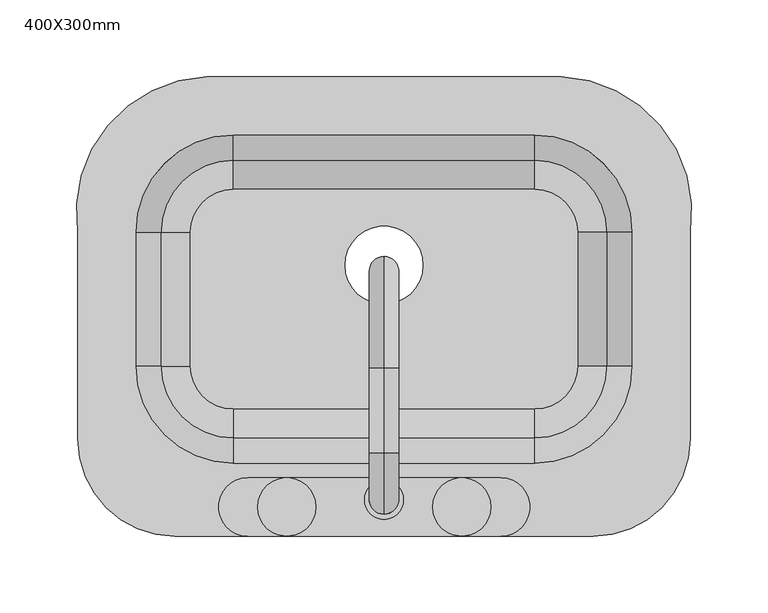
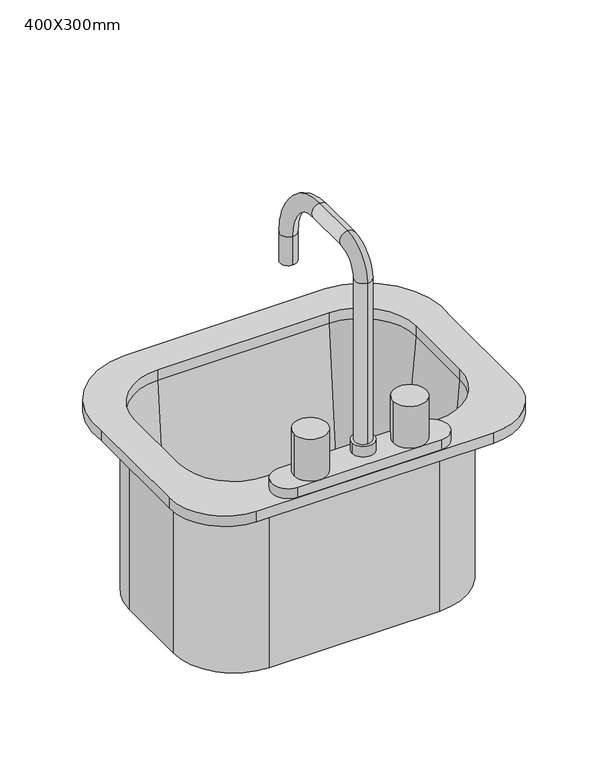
"""IFC4 building model written with IfcOpenShell, lengths in millimetres: flow terminal geometry, ARQ_VANITORIO : 400X300mm."""

import ifcopenshell
import ifcopenshell.guid

model = None  # the IFC model being written
_history = None  # IfcOwnerHistory: only IFC2X3 demands one
_inside = {}  # id of a spatial element -> (the spatial element, [elements in it])
_under = {}  # id of a project, library or spatial element -> (it, [spatial elements below it])
_declared = {}  # id of a project -> (the project, [libraries it declares])
_typed = {}  # id of a type object -> (the type object, [elements of that type])
_made_of = {}  # id of a material, layer set ... -> (it, [elements and type objects made of it])


def new_model(schema):
    """Start an empty IFC model of exactly this schema.

    Asked for "IFC4X3", IfcOpenShell would pick the latest addendum, in which some entities
    have other attributes; the version numbers below select the first issue.
    IFC2X3 requires an IfcOwnerHistory on every rooted entity: one is made here for all.
    """
    global model, _history
    if schema == "IFC4X3":
        model = ifcopenshell.file(schema_version=(4, 3, 0, 0))
    else:
        model = ifcopenshell.file(schema=schema)
    _inside.clear()
    _under.clear()
    _declared.clear()
    _typed.clear()
    _made_of.clear()
    _history = None
    if model.schema == "IFC2X3":
        org = make("IfcOrganization", Name="unknown")
        user = make(
            "IfcPersonAndOrganization",
            ThePerson=make("IfcPerson", FamilyName="unknown"),
            TheOrganization=org,
        )
        app = make(
            "IfcApplication",
            ApplicationDeveloper=org,
            Version="unknown",
            ApplicationFullName="unknown",
            ApplicationIdentifier="unknown",
        )
        _history = make(
            "IfcOwnerHistory",
            OwningUser=user,
            OwningApplication=app,
            ChangeAction="ADDED",
            CreationDate=0,
        )
    return model


def make(cls, **values):
    """One entity of the class cls with the attributes given. An attribute that is None is left unset."""
    return model.create_entity(
        cls, **{name: value for name, value in values.items() if value is not None}
    )


def rooted(cls, **values):
    """An entity with a GlobalId (a new one), such as an element, a storey or a relation."""
    return make(cls, GlobalId=ifcopenshell.guid.new(), OwnerHistory=_history, **values)


def si_unit(unit_type, name, prefix=None):
    """IfcSIUnit, for example si_unit("LENGTHUNIT", "METRE", prefix="MILLI")."""
    return make("IfcSIUnit", UnitType=unit_type, Prefix=prefix, Name=name)


def assignment(units):
    """IfcUnitAssignment: the units of a project."""
    return None if units is None else make("IfcUnitAssignment", Units=units)


def point(xyz):
    """IfcCartesianPoint."""
    return None if xyz is None else make("IfcCartesianPoint", Coordinates=xyz)


def direction(xyz):
    """IfcDirection."""
    return None if xyz is None else make("IfcDirection", DirectionRatios=xyz)


def frame(location, z_axis=None, x_axis=None):
    """IfcAxis2Placement3D, a coordinate frame: its origin and axes. An axis left out is left unset."""
    return make(
        "IfcAxis2Placement3D",
        Location=point(location),
        Axis=direction(z_axis),
        RefDirection=direction(x_axis),
    )


def origin():
    """The frame at (0, 0, 0) with its axes left unset."""
    return frame((0.0, 0.0, 0.0))


def place(relative_to, where):
    """IfcLocalPlacement: puts the frame where relative to a parent placement (None: the world)."""
    return make(
        "IfcLocalPlacement", PlacementRelTo=relative_to, RelativePlacement=where
    )


def context(
    kind, dimensions, precision=None, world=None, true_north=None, identifier=None
):
    """IfcGeometricRepresentationContext, for example the 3D "Model" context."""
    return make(
        "IfcGeometricRepresentationContext",
        ContextIdentifier=identifier,
        ContextType=kind,
        CoordinateSpaceDimension=dimensions,
        Precision=precision,
        WorldCoordinateSystem=world,
        TrueNorth=true_north,
    )


def project(units=None, contexts=None):
    """IfcProject with its units and contexts."""
    return rooted(
        "IfcProject",
        Name="project",
        RepresentationContexts=contexts,
        UnitsInContext=assignment(units),
    )


def spatial(cls, under=None, at=None, **own):
    """A site, building, storey or space (cls), placed at a placement, below another one or the project."""
    s = rooted(cls, ObjectPlacement=at, **own)
    if under is not None:
        _under.setdefault(under.id(), (under, []))[1].append(s)
    return s


def polyline(points):
    """IfcPolyline through the points."""
    return make("IfcPolyline", Points=[point(p) for p in points])


def circle_curve(where, radius):
    """IfcCircle in the frame where."""
    return make("IfcCircle", Position=where, Radius=radius)


def ellipse_curve(where, semi_axis1, semi_axis2):
    """IfcEllipse in the frame where."""
    return make(
        "IfcEllipse", Position=where, SemiAxis1=semi_axis1, SemiAxis2=semi_axis2
    )


def trimmed(basis, trim1, trim2, sense, master):
    """IfcTrimmedCurve: the piece of a basis curve between two trims."""
    return make(
        "IfcTrimmedCurve",
        BasisCurve=basis,
        Trim1=trim1,
        Trim2=trim2,
        SenseAgreement=sense,
        MasterRepresentation=master,
    )


def shape(context_of_items, identifier, shape_type, items):
    """IfcShapeRepresentation: the items that make up one representation, for example the "Body"."""
    return make(
        "IfcShapeRepresentation",
        ContextOfItems=context_of_items,
        RepresentationIdentifier=identifier,
        RepresentationType=shape_type,
        Items=items,
    )


def source(mapping_origin, context_of_items, identifier, shape_type, items):
    """IfcRepresentationMap: a shape defined once, which mapped items show again and again."""
    return make(
        "IfcRepresentationMap",
        MappingOrigin=mapping_origin,
        MappedRepresentation=shape(context_of_items, identifier, shape_type, items),
    )


def transform(
    local_origin,
    x_axis=None,
    y_axis=None,
    z_axis=None,
    scale=None,
    scale2=None,
    scale3=None,
    uniform=True,
):
    """IfcCartesianTransformationOperator3D, or its non-uniform kind. x_axis, y_axis, z_axis: its Axis1, 2, 3."""
    if uniform:
        return make(
            "IfcCartesianTransformationOperator3D",
            Axis1=direction(x_axis),
            Axis2=direction(y_axis),
            LocalOrigin=point(local_origin),
            Scale=scale,
            Axis3=direction(z_axis),
        )
    return make(
        "IfcCartesianTransformationOperator3DnonUniform",
        Axis1=direction(x_axis),
        Axis2=direction(y_axis),
        LocalOrigin=point(local_origin),
        Scale=scale,
        Axis3=direction(z_axis),
        Scale2=scale2,
        Scale3=scale3,
    )


def mapped(mapping_source, mapping_target):
    """IfcMappedItem: shows the shape of a source again, moved by a transform."""
    return make(
        "IfcMappedItem", MappingSource=mapping_source, MappingTarget=mapping_target
    )


def made_of(thing, what):
    """Note that an element or type object is made of a material, layer set ...; save() writes the relation."""
    if what is not None:
        _made_of.setdefault(what.id(), (what, []))[1].append(thing)
    return thing


def element(
    cls,
    number,
    at=None,
    inside=None,
    cuts=None,
    type_object=None,
    material=None,
    context=None,
    identifier="Body",
    shape_type=None,
    held_by="IfcProductDefinitionShape",
    body=None,
    shapes=None,
    **own,
):
    """One element of the class cls, such as IfcWall. Its Tag is "e" and its number.

    at: its placement. inside: the storey or other place that contains it. cuts: it is an
    opening in that element (IfcRelVoidsElement). A single representation is given by context,
    identifier, shape_type and body (its items); several are given by shapes. held_by: the class
    of the entity that holds the representations. save() writes the other relations.
    """
    e = rooted(cls, Tag="e%d" % number, ObjectPlacement=at, **own)
    if body is not None:
        shapes = [shape(context, identifier, shape_type, body)]
    if shapes is not None:
        e.Representation = make(held_by, Representations=shapes)
    if inside is not None:
        _inside.setdefault(inside.id(), (inside, []))[1].append(e)
    if cuts is not None:
        rooted(
            "IfcRelVoidsElement", RelatingBuildingElement=cuts, RelatedOpeningElement=e
        )
    if type_object is not None:
        _typed.setdefault(type_object.id(), (type_object, []))[1].append(e)
    return made_of(e, material)


def aggregate(whole, parts):
    """IfcRelAggregates: a whole, such as a stair, and the parts it consists of."""
    return rooted("IfcRelAggregates", RelatingObject=whole, RelatedObjects=parts)


def save(model, path):
    """Write the relations noted so far, then the file.

    IfcRelAggregates (storeys below a building ...), IfcRelContainedInSpatialStructure (elements
    in a storey), IfcRelDefinesByType, IfcRelAssociatesMaterial and IfcRelDeclares: one each for
    every whole, place, type object, material and project.
    """
    for whole, parts in _under.values():
        aggregate(whole, parts)
    for where, things in _inside.values():
        rooted(
            "IfcRelContainedInSpatialStructure",
            RelatedElements=things,
            RelatingStructure=where,
        )
    for kind, things in _typed.values():
        rooted("IfcRelDefinesByType", RelatedObjects=things, RelatingType=kind)
    for what, things in _made_of.values():
        rooted("IfcRelAssociatesMaterial", RelatedObjects=things, RelatingMaterial=what)
    for by, libraries in _declared.values():
        rooted("IfcRelDeclares", RelatingContext=by, RelatedDefinitions=libraries)
    model.write(path)


def plane_surface(at):
    """IfcPlane: the flat surface through the origin of the frame at, square to its z axis."""
    return make("IfcPlane", Position=at)


def cylinder_surface(at, radius):
    """IfcCylindricalSurface: all points at the distance radius from the z axis of the frame at."""
    return make("IfcCylindricalSurface", Position=at, Radius=radius)


def revolved_surface(curve, axis_point, axis_direction):
    """IfcSurfaceOfRevolution: the curve turned about the line through axis_point along axis_direction."""
    return make(
        "IfcSurfaceOfRevolution",
        SweptCurve=make("IfcArbitraryOpenProfileDef", ProfileType="CURVE", Curve=curve),
        AxisPosition=make("IfcAxis1Placement", Location=point(axis_point), Axis=direction(axis_direction)),
    )


def advanced_brep(points, edges, surfaces, faces):
    """IfcAdvancedBrep: a solid bounded by faces that lie on surfaces and meet in shared edges.

    An edge is (start, end): straight between two places in points (the first is 0);
    or (start, end, curve); or (start, end, curve, False) where it runs against its curve.
    A face is (place in surfaces, loops), or (place, loops, False) where it looks against
    its surface's normal. A loop lists edges by number (the first is 1), with a minus sign
    where the edge is run from its end to its start. The first loop is the outer one.
    """
    corners = [point(p) for p in points]
    vertices = [make("IfcVertexPoint", VertexGeometry=c) for c in corners]
    made = []
    for start, end, *more in edges:
        made.append(
            make(
                "IfcEdgeCurve",
                EdgeStart=vertices[start],
                EdgeEnd=vertices[end],
                EdgeGeometry=more[0] if more else make("IfcPolyline", Points=[corners[start], corners[end]]),
                SameSense=more[1] if len(more) > 1 else True,
            )
        )
    hull = []
    for where, loops, *sense in faces:
        bounds = []
        for j, loop in enumerate(loops):
            ring = [make("IfcOrientedEdge", EdgeElement=made[abs(k) - 1], Orientation=k > 0) for k in loop]
            bounds.append(
                make(
                    "IfcFaceOuterBound" if j == 0 else "IfcFaceBound",
                    Bound=make("IfcEdgeLoop", EdgeList=ring),
                    Orientation=True,
                )
            )
        hull.append(make("IfcAdvancedFace", Bounds=bounds, FaceSurface=surfaces[where], SameSense=sense[0] if sense else True))
    return make("IfcAdvancedBrep", Outer=make("IfcClosedShell", CfsFaces=hull))


def flow_terminal_400x300mm_a22b8487(model_context):
    return source(origin(), model_context, "Body", "AdvancedBrep", [
        advanced_brep(
        [(183.9392406, -69.0204011, 684.1), (183.9392406, -69.0204011, 900.0), (114.0892406, -138.8704011, 900.0), (114.0892406, -138.8704011, 684.1), (-82.7107594, -138.8704011, 684.1), (-152.5607594, -69.0204011, 684.1), (-152.5607594, 18.2545989, 684.1), (-82.7107594, 88.1045989, 684.1), (114.0892406, 88.1045989, 684.1), (183.9392406, 18.2545989, 684.1), (-9.7107594, -3.175, 684.1), (41.0892406, -3.175, 684.1), (142.0776588, -69.0204011, 693.625), (142.0776588, 18.2545989, 693.625), (114.0892406, 46.2430171, 693.625), (-82.7107594, 46.2430171, 693.625), (-110.6991776, 18.2545989, 693.625), (-110.6991776, -69.0204011, 693.625), (-82.7107594, -97.0088193, 693.625), (114.0892406, -97.0088193, 693.625), (-9.7107594, -3.175, 693.625), (41.0892406, -3.175, 693.625), (114.0892406, -115.9863283, 711.0146831), (161.0551678, -69.0204011, 711.0146831), (114.0892406, -132.5204011, 900.0), (177.5892406, -69.0204011, 900.0), (183.9392406, 18.2545989, 900.0), (161.0551678, 18.2545989, 711.0146831), (177.5892406, 18.2545989, 900.0), (114.0892406, 88.1045989, 900.0), (114.0892406, 65.2205261, 711.0146831), (114.0892406, 81.7545989, 900.0), (-82.7107594, 88.1045989, 900.0), (-82.7107594, 65.2205261, 711.0146831), (-82.7107594, 81.7545989, 900.0), (-152.5607594, 18.2545989, 900.0), (-129.6766866, 18.2545989, 711.0146831), (-146.2107594, 18.2545989, 900.0), (-152.5607594, -69.0204011, 900.0), (-129.6766866, -69.0204011, 711.0146831), (-146.2107594, -69.0204011, 900.0), (-82.7107594, -138.8704011, 900.0), (-82.7107594, -115.9863283, 711.0146831), (-82.7107594, -132.5204011, 900.0), (-99.9606923, 119.8545989, 912.7), (-184.3107593, 18.2545982, 912.7), (-184.3107593, -116.6454011, 912.7), (-120.8107593, -180.1454011, 912.7), (152.1892406, -180.1454011, 912.7), (215.6892406, -116.6454011, 912.7), (215.6892406, 18.2545989, 912.7), (131.3391735, 119.8545989, 912.7), (114.0892406, -132.5204011, 912.7), (-82.7107594, -132.5204011, 912.7), (-146.2107594, -69.0204011, 912.7), (-146.2107594, 18.2545989, 912.7), (-82.7107594, 81.7545989, 912.7), (114.0892406, 81.7545989, 912.7), (177.5892406, 18.2545989, 912.7), (177.5892406, -69.0204011, 912.7), (-99.9606923, 119.8545989, 900.0), (131.3391735, 119.8545989, 900.0), (215.6892406, 18.2545989, 900.0), (215.6892406, -116.6454011, 900.0), (152.1892406, -180.1454011, 900.0), (-120.8107593, -180.1454011, 900.0), (-184.3107593, -116.6454011, 900.0), (-184.3107593, 18.2545982, 900.0)],
        [
            (0, 1),
            (1, 2, circle_curve(frame((114.0892406, -69.0204011, 900.0), z_axis=(0.0, 0.0, -1.0), x_axis=(0.0, -1.0, 0.0)), 69.85)),
            (2, 3),
            (3, 0, circle_curve(frame((114.0892406, -69.0204011, 684.1), z_axis=(0.0, 0.0, 1.0), x_axis=(0.0, -1.0, 0.0)), 69.85)),
            (3, 4),
            (4, 5, circle_curve(frame((-82.7107594, -69.0204011, 684.1), z_axis=(0.0, 0.0, -1.0), x_axis=(-1.0, 0.0, 0.0)), 69.85)),
            (5, 6),
            (6, 7, circle_curve(frame((-82.7107594, 18.2545989, 684.1), z_axis=(0.0, 0.0, -1.0), x_axis=(0.0, 1.0, 0.0)), 69.85)),
            (7, 8),
            (8, 9, circle_curve(frame((114.0892406, 18.2545989, 684.1), z_axis=(0.0, 0.0, -1.0), x_axis=(1.0, 0.0, 0.0)), 69.85)),
            (9, 0),
            (10, 11, circle_curve(frame((15.6892406, -3.175, 684.1), z_axis=(0.0, 0.0, 1.0), x_axis=(1.0, 0.0, 0.0)), 25.4)),
            (11, 10, circle_curve(frame((15.6892406, -3.175, 684.1), z_axis=(0.0, 0.0, 1.0), x_axis=(1.0, 0.0, 0.0)), 25.4)),
            (12, 13),
            (13, 14, circle_curve(frame((114.0892406, 18.2545989, 693.625), z_axis=(0.0, 0.0, 1.0), x_axis=(1.0, 0.0, 0.0)), 27.9884182)),
            (14, 15),
            (15, 16, circle_curve(frame((-82.7107594, 18.2545989, 693.625), z_axis=(0.0, 0.0, 1.0), x_axis=(0.0, 1.0, 0.0)), 27.9884182)),
            (16, 17),
            (17, 18, circle_curve(frame((-82.7107594, -69.0204011, 693.625), z_axis=(0.0, 0.0, 1.0), x_axis=(-1.0, 0.0, 0.0)), 27.9884182)),
            (18, 19),
            (19, 12, circle_curve(frame((114.0892406, -69.0204011, 693.625), z_axis=(0.0, 0.0, 1.0), x_axis=(0.0, -1.0, 0.0)), 27.9884182)),
            (20, 21, circle_curve(frame((15.6892406, -3.175, 693.625), z_axis=(0.0, 0.0, -1.0), x_axis=(1.0, 0.0, 0.0)), 25.4)),
            (21, 20, circle_curve(frame((15.6892406, -3.175, 693.625), z_axis=(0.0, 0.0, -1.0), x_axis=(1.0, 0.0, 0.0)), 25.4)),
            (19, 22, circle_curve(frame((114.0892406, -97.0088193, 712.675), z_axis=(-1.0, 0.0, 0.0), x_axis=(0.0, -1.0, 0.0)), 19.05)),
            (22, 23, circle_curve(frame((114.0892406, -69.0204011, 711.0146831), z_axis=(0.0, 0.0, 1.0), x_axis=(0.0, -1.0, 0.0)), 46.9659272)),
            (23, 12, circle_curve(frame((142.0776588, -69.0204011, 712.675), z_axis=(0.0, 1.0, 0.0), x_axis=(1.0, 0.0, 0.0)), 19.05)),
            (22, 24),
            (24, 25, circle_curve(frame((114.0892406, -69.0204011, 900.0), z_axis=(0.0, 0.0, 1.0), x_axis=(0.0, -1.0, 0.0)), 63.5)),
            (25, 23),
            (9, 26),
            (26, 1),
            (23, 27),
            (27, 13, circle_curve(frame((142.0776588, 18.2545989, 712.675), z_axis=(0.0, 1.0, 0.0), x_axis=(1.0, 0.0, 0.0)), 19.05)),
            (25, 28),
            (28, 27),
            (8, 29),
            (29, 26, circle_curve(frame((114.0892406, 18.2545989, 900.0), z_axis=(0.0, 0.0, -1.0), x_axis=(1.0, 0.0, 0.0)), 69.85)),
            (27, 30, circle_curve(frame((114.0892406, 18.2545989, 711.0146831), z_axis=(0.0, 0.0, 1.0), x_axis=(1.0, 0.0, 0.0)), 46.9659272)),
            (30, 14, circle_curve(frame((114.0892406, 46.2430171, 712.675), z_axis=(-1.0, 0.0, 0.0), x_axis=(0.0, 1.0, 0.0)), 19.05)),
            (28, 31, circle_curve(frame((114.0892406, 18.2545989, 900.0), z_axis=(0.0, 0.0, 1.0), x_axis=(1.0, 0.0, 0.0)), 63.5)),
            (31, 30),
            (7, 32),
            (32, 29),
            (30, 33),
            (33, 15, circle_curve(frame((-82.7107594, 46.2430171, 712.675), z_axis=(-1.0, 0.0, 0.0), x_axis=(0.0, 1.0, 0.0)), 19.05)),
            (31, 34),
            (34, 33),
            (6, 35),
            (35, 32, circle_curve(frame((-82.7107594, 18.2545989, 900.0), z_axis=(0.0, 0.0, -1.0), x_axis=(0.0, 1.0, 0.0)), 69.85)),
            (33, 36, circle_curve(frame((-82.7107594, 18.2545989, 711.0146831), z_axis=(0.0, 0.0, 1.0), x_axis=(0.0, 1.0, 0.0)), 46.9659272)),
            (36, 16, circle_curve(frame((-110.6991776, 18.2545989, 712.675), z_axis=(0.0, -1.0, 0.0), x_axis=(-1.0, 0.0, 0.0)), 19.05)),
            (34, 37, circle_curve(frame((-82.7107594, 18.2545989, 900.0), z_axis=(0.0, 0.0, 1.0), x_axis=(0.0, 1.0, 0.0)), 63.5)),
            (37, 36),
            (5, 38),
            (38, 35),
            (36, 39),
            (39, 17, circle_curve(frame((-110.6991776, -69.0204011, 712.675), z_axis=(0.0, -1.0, 0.0), x_axis=(-1.0, 0.0, 0.0)), 19.05)),
            (37, 40),
            (40, 39),
            (4, 41),
            (41, 38, circle_curve(frame((-82.7107594, -69.0204011, 900.0), z_axis=(0.0, 0.0, -1.0), x_axis=(-1.0, 0.0, 0.0)), 69.85)),
            (39, 42, circle_curve(frame((-82.7107594, -69.0204011, 711.0146831), z_axis=(0.0, 0.0, 1.0), x_axis=(-1.0, 0.0, 0.0)), 46.9659272)),
            (42, 18, circle_curve(frame((-82.7107594, -97.0088193, 712.675), z_axis=(1.0, 0.0, 0.0), x_axis=(0.0, -1.0, 0.0)), 19.05)),
            (40, 43, circle_curve(frame((-82.7107594, -69.0204011, 900.0), z_axis=(0.0, 0.0, 1.0), x_axis=(-1.0, 0.0, 0.0)), 63.5)),
            (43, 42),
            (2, 41),
            (42, 22),
            (43, 24),
            (21, 11),
            (10, 20),
            (44, 45, circle_curve(frame((-96.1534746, 30.8793432, 912.7), z_axis=(0.0, 0.0, 1.0), x_axis=(1.0, 0.0, 0.0)), 89.0566732)),
            (45, 46),
            (46, 47, circle_curve(frame((-120.8107593, -116.6454011, 912.7), z_axis=(0.0, 0.0, 1.0), x_axis=(1.0, 0.0, 0.0)), 63.5)),
            (47, 48),
            (48, 49, circle_curve(frame((152.1892406, -116.6454011, 912.7), z_axis=(0.0, 0.0, 1.0), x_axis=(1.0, 0.0, 0.0)), 63.5)),
            (49, 50),
            (50, 51, circle_curve(frame((127.5319557, 30.8793432, 912.7), z_axis=(0.0, 0.0, 1.0), x_axis=(1.0, 0.0, 0.0)), 89.0566732)),
            (51, 44),
            (52, 53),
            (53, 54, circle_curve(frame((-82.7107594, -69.0204011, 912.7), z_axis=(0.0, 0.0, -1.0), x_axis=(1.0, 0.0, 0.0)), 63.5)),
            (54, 55),
            (55, 56, circle_curve(frame((-82.7107594, 18.2545989, 912.7), z_axis=(0.0, 0.0, -1.0), x_axis=(1.0, 0.0, 0.0)), 63.5)),
            (56, 57),
            (57, 58, circle_curve(frame((114.0892406, 18.2545989, 912.7), z_axis=(0.0, 0.0, -1.0), x_axis=(1.0, 0.0, 0.0)), 63.5)),
            (58, 59),
            (59, 52, circle_curve(frame((114.0892406, -69.0204011, 912.7), z_axis=(0.0, 0.0, -1.0), x_axis=(1.0, 0.0, 0.0)), 63.5)),
            (60, 61),
            (61, 62, circle_curve(frame((127.5319557, 30.8793432, 900.0), z_axis=(0.0, 0.0, -1.0), x_axis=(1.0, 0.0, 0.0)), 89.0566732)),
            (62, 63),
            (63, 64, circle_curve(frame((152.1892406, -116.6454011, 900.0), z_axis=(0.0, 0.0, -1.0), x_axis=(1.0, 0.0, 0.0)), 63.5)),
            (64, 65),
            (65, 66, circle_curve(frame((-120.8107593, -116.6454011, 900.0), z_axis=(0.0, 0.0, -1.0), x_axis=(1.0, 0.0, 0.0)), 63.5)),
            (66, 67),
            (67, 60, circle_curve(frame((-96.1534746, 30.8793432, 900.0), z_axis=(0.0, 0.0, -1.0), x_axis=(1.0, 0.0, 0.0)), 89.0566732)),
            (51, 61),
            (60, 44),
            (50, 62),
            (49, 63),
            (48, 64),
            (47, 65),
            (46, 66),
            (45, 67),
            (59, 25),
            (24, 52),
            (58, 28),
            (57, 31),
            (56, 34),
            (55, 37),
            (54, 40),
            (53, 43),
        ],
        [
            cylinder_surface(frame((114.0892406, -69.0204011, 0.0), z_axis=(0.0, 0.0, -1.0), x_axis=(0.0, -1.0, 0.0)), 69.85),
            plane_surface(frame((114.0892406, -69.0204011, 684.1), z_axis=(0.0, 0.0, -1.0), x_axis=(0.0, -1.0, 0.0))),
            plane_surface(frame((114.0892406, -69.0204011, 693.625), z_axis=(0.0, 0.0, 1.0), x_axis=(0.0, -1.0, 0.0))),
            revolved_surface(trimmed(ellipse_curve(frame((114.0892406, -97.0088193, 712.675), z_axis=(-1.0, 0.0, 0.0), x_axis=(0.0, -1.0, 0.0)), 19.05, 19.05), [point((114.0892406, -97.0088193, 693.625))], [point((114.0892406, -115.9863283, 711.0146831))], True, "CARTESIAN"), (114.0892406, -69.0204011, 0.0), (0.0, 0.0, -1.0)),
            revolved_surface(polyline([(114.0892406, -115.9863283, 711.0146831), (114.0892406, -132.5204011, 900.0)]), (114.0892406, -69.0204011, 0.0), (0.0, 0.0, -1.0)),
            plane_surface(frame((183.9392406, -69.0204011, 900.0), z_axis=(1.0, 0.0, 0.0), x_axis=(0.0, 1.0, 0.0))),
            revolved_surface(polyline([(161.1276588, 18.254598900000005, 712.675), (161.1276588, -69.0204011, 712.675)]), (142.0776588, -69.0204011, 712.675), (0.0, 1.0, 0.0)),
            plane_surface(frame((161.0551678, -69.0204011, 711.0146831), z_axis=(-0.9961946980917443, 0.0, 0.08715574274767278), x_axis=(0.0, 1.0, 0.0))),
            cylinder_surface(frame((114.0892406, 18.2545989, 0.0), z_axis=(0.0, 0.0, -1.0), x_axis=(1.0, 0.0, 0.0)), 69.85),
            revolved_surface(trimmed(ellipse_curve(frame((142.0776588, 18.2545989, 712.675), z_axis=(0.0, -1.0, 0.0), x_axis=(1.0, 0.0, 0.0)), 19.05, 19.05), [point((142.0776588, 18.2545989, 693.625))], [point((161.0551678, 18.2545989, 711.0146831))], True, "CARTESIAN"), (114.0892406, 18.2545989, 0.0), (0.0, 0.0, -1.0)),
            revolved_surface(polyline([(161.0551678, 18.2545989, 711.0146831), (177.5892406, 18.2545989, 900.0)]), (114.0892406, 18.2545989, 0.0), (0.0, 0.0, -1.0)),
            plane_surface(frame((114.0892406, 88.1045989, 900.0), z_axis=(0.0, 1.0, 0.0), x_axis=(-1.0, 0.0, 0.0))),
            revolved_surface(polyline([(-82.71075940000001, 65.2930171, 712.675), (114.0892406, 65.2930171, 712.675)]), (114.0892406, 46.2430171, 712.675), (-1.0, 0.0, 0.0)),
            plane_surface(frame((114.0892406, 65.2205261, 711.0146831), z_axis=(0.0, -0.9961946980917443, 0.08715574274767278), x_axis=(-1.0, 0.0, 0.0))),
            cylinder_surface(frame((-82.7107594, 18.2545989, 0.0), z_axis=(0.0, 0.0, -1.0), x_axis=(0.0, 1.0, 0.0)), 69.85),
            revolved_surface(trimmed(ellipse_curve(frame((-82.7107594, 46.2430171, 712.675), z_axis=(1.0, 0.0, 0.0), x_axis=(0.0, 1.0, 0.0)), 19.05, 19.05), [point((-82.7107594, 46.2430171, 693.625))], [point((-82.7107594, 65.2205261, 711.0146831))], True, "CARTESIAN"), (-82.7107594, 18.2545989, 0.0), (0.0, 0.0, -1.0)),
            revolved_surface(polyline([(-82.7107594, 65.2205261, 711.0146831), (-82.7107594, 81.7545989, 900.0)]), (-82.7107594, 18.2545989, 0.0), (0.0, 0.0, -1.0)),
            plane_surface(frame((-152.5607594, 18.2545989, 900.0), z_axis=(-1.0, 0.0, 0.0), x_axis=(0.0, -1.0, 0.0))),
            revolved_surface(polyline([(-129.7491776, -69.0204011, 712.675), (-129.7491776, 18.2545989, 712.675)]), (-110.6991776, 18.2545989, 712.675), (0.0, -1.0, 0.0)),
            plane_surface(frame((-129.6766866, 18.2545989, 711.0146831), z_axis=(0.9961946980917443, 0.0, 0.08715574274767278), x_axis=(0.0, -1.0, 0.0))),
            cylinder_surface(frame((-82.7107594, -69.0204011, 0.0), z_axis=(0.0, 0.0, -1.0), x_axis=(-1.0, 0.0, 0.0)), 69.85),
            revolved_surface(trimmed(ellipse_curve(frame((-110.6991776, -69.0204011, 712.675), z_axis=(0.0, 1.0, 0.0), x_axis=(-1.0, 0.0, 0.0)), 19.05, 19.05), [point((-110.6991776, -69.0204011, 693.625))], [point((-129.6766866, -69.0204011, 711.0146831))], True, "CARTESIAN"), (-82.7107594, -69.0204011, 0.0), (0.0, 0.0, -1.0)),
            revolved_surface(polyline([(-129.6766866, -69.0204011, 711.0146831), (-146.2107594, -69.0204011, 900.0)]), (-82.7107594, -69.0204011, 0.0), (0.0, 0.0, -1.0)),
            plane_surface(frame((-82.7107594, -138.8704011, 900.0), z_axis=(0.0, -1.0, 0.0), x_axis=(1.0, 0.0, 0.0))),
            revolved_surface(polyline([(114.08924060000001, -116.0588193, 712.675), (-82.7107594, -116.0588193, 712.675)]), (-82.7107594, -97.0088193, 712.675), (1.0, 0.0, 0.0)),
            plane_surface(frame((-82.7107594, -115.9863283, 711.0146831), z_axis=(0.0, 0.9961946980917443, 0.08715574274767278), x_axis=(1.0, 0.0, 0.0))),
            revolved_surface(polyline([(41.0892406, -3.175, 684.1), (41.0892406, -3.175, 693.625)]), (15.6892406, -3.175, 0.0), (0.0, 0.0, -1.0)),
            plane_surface(frame((131.3391735, 119.8545989, 912.7), z_axis=(0.0, 0.0, 1.0), x_axis=(1.0, 0.0, 0.0))),
            plane_surface(frame((131.3391735, 119.8545989, 900.0), z_axis=(0.0, 0.0, -1.0), x_axis=(-1.0, 0.0, 0.0))),
            plane_surface(frame((-99.9606923, 119.8545989, 912.7), z_axis=(0.0, 1.0, 0.0), x_axis=(0.0, 0.0, -1.0))),
            cylinder_surface(frame((127.5319557, 30.8793432, 900.0), z_axis=(0.0, 0.0, 1.0), x_axis=(1.0, 0.0, 0.0)), 89.0566732),
            plane_surface(frame((215.6892406, 18.2545989, 912.7), z_axis=(1.0, 0.0, 0.0), x_axis=(0.0, 0.0, -1.0))),
            cylinder_surface(frame((152.1892406, -116.6454011, 900.0), z_axis=(0.0, 0.0, 1.0), x_axis=(1.0, 0.0, 0.0)), 63.5),
            plane_surface(frame((152.1892406, -180.1454011, 912.7), z_axis=(0.0, -1.0, 0.0), x_axis=(0.0, 0.0, -1.0))),
            cylinder_surface(frame((-120.8107593, -116.6454011, 900.0), z_axis=(0.0, 0.0, 1.0), x_axis=(1.0, 0.0, 0.0)), 63.5),
            plane_surface(frame((-184.3107593, -116.6454011, 912.7), z_axis=(-1.0, 0.0, 0.0), x_axis=(0.0, 0.0, -1.0))),
            cylinder_surface(frame((-96.1534746, 30.8793432, 900.0), z_axis=(0.0, 0.0, 1.0), x_axis=(1.0, 0.0, 0.0)), 89.0566732),
            revolved_surface(polyline([(177.58924059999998, -69.0204011, 900.0), (177.58924059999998, -69.0204011, 912.7)]), (114.0892406, -69.0204011, 0.0), (0.0, 0.0, -1.0)),
            plane_surface(frame((177.5892406, -69.0204011, 912.7), z_axis=(-1.0, 0.0, 0.0), x_axis=(0.0, 0.0, -1.0))),
            revolved_surface(polyline([(177.58924059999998, 18.2545989, 900.0), (177.58924059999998, 18.2545989, 912.7)]), (114.0892406, 18.2545989, 0.0), (0.0, 0.0, -1.0)),
            plane_surface(frame((114.0892406, 81.7545989, 912.7), z_axis=(0.0, -1.0, 0.0), x_axis=(0.0, 0.0, -1.0))),
            revolved_surface(polyline([(-19.2107594, 18.2545989, 900.0), (-19.2107594, 18.2545989, 912.7)]), (-82.7107594, 18.2545989, 0.0), (0.0, 0.0, -1.0)),
            plane_surface(frame((-146.2107594, 18.2545989, 912.7), z_axis=(1.0, 0.0, 0.0), x_axis=(0.0, 0.0, -1.0))),
            revolved_surface(polyline([(-19.2107594, -69.0204011, 900.0), (-19.2107594, -69.0204011, 912.7)]), (-82.7107594, -69.0204011, 0.0), (0.0, 0.0, -1.0)),
            plane_surface(frame((-82.7107594, -132.5204011, 912.7), z_axis=(0.0, 1.0, 0.0), x_axis=(0.0, 0.0, -1.0))),
        ],
        [
            (0, [[1, 2, 3, 4]]),
            (1, [[5, 6, 7, 8, 9, 10, 11, -4], [12, 13]]),
            (2, [[14, 15, 16, 17, 18, 19, 20, 21], [22, 23]]),
            (3, [[24, 25, 26, -21]]),
            (4, [[27, 28, 29, -25]]),
            (5, [[-11, 30, 31, -1]]),
            (6, [[32, 33, -14, -26]]),
            (7, [[34, 35, -32, -29]]),
            (8, [[-10, 36, 37, -30]]),
            (9, [[38, 39, -15, -33]]),
            (10, [[40, 41, -38, -35]]),
            (11, [[-9, 42, 43, -36]]),
            (12, [[44, 45, -16, -39]]),
            (13, [[46, 47, -44, -41]]),
            (14, [[-8, 48, 49, -42]]),
            (15, [[50, 51, -17, -45]]),
            (16, [[52, 53, -50, -47]]),
            (17, [[-7, 54, 55, -48]]),
            (18, [[56, 57, -18, -51]]),
            (19, [[58, 59, -56, -53]]),
            (20, [[-6, 60, 61, -54]]),
            (21, [[62, 63, -19, -57]]),
            (22, [[64, 65, -62, -59]]),
            (23, [[66, -60, -5, -3]]),
            (24, [[-20, -63, 67, -24]]),
            (25, [[-67, -65, 68, -27]]),
            (26, [[69, -12, 70, -23]]),
            (26, [[-70, -13, -69, -22]]),
            (27, [[71, 72, 73, 74, 75, 76, 77, 78], [79, 80, 81, 82, 83, 84, 85, 86]]),
            (28, [[87, 88, 89, 90, 91, 92, 93, 94], [-31, -37, -43, -49, -55, -61, -66, -2]]),
            (29, [[95, -87, 96, -78]]),
            (30, [[97, -88, -95, -77]]),
            (31, [[98, -89, -97, -76]]),
            (32, [[99, -90, -98, -75]]),
            (33, [[100, -91, -99, -74]]),
            (34, [[101, -92, -100, -73]]),
            (35, [[102, -93, -101, -72]]),
            (36, [[-96, -94, -102, -71]]),
            (37, [[103, -28, 104, -86]]),
            (38, [[105, -34, -103, -85]]),
            (39, [[106, -40, -105, -84]]),
            (40, [[107, -46, -106, -83]]),
            (41, [[108, -52, -107, -82]]),
            (42, [[109, -58, -108, -81]]),
            (43, [[110, -64, -109, -80]]),
            (44, [[-104, -68, -110, -79]]),
        ],
    ),
        advanced_brep(
        [(91.8892406, -180.1454011, 912.7), (66.4892406, -180.1454011, 912.7), (-47.8107594, -180.1454011, 912.7), (-73.2107594, -180.1454011, 912.7), (-73.2107594, -142.0454011, 912.7), (-47.8107594, -142.0454011, 912.7), (66.4892406, -142.0454011, 912.7), (91.8892406, -142.0454011, 912.7), (15.6892406, -165.8579011, 1133.3625), (15.6892406, -165.8579011, 938.1), (15.6892406, -146.8079011, 938.1), (15.6892406, -146.8079011, 1133.3625), (15.6892406, -126.1704011, 1154.0), (15.6892406, -126.1704011, 1173.05), (15.6892406, -70.6079011, 1154.0), (15.6892406, -70.6079011, 1173.05), (15.6892406, -16.6329011, 1100.025), (15.6892406, 2.4170989, 1100.025), (15.6892406, 2.4170989, 1065.1), (15.6892406, -16.6329011, 1065.1), (2.9892406, -156.3329011, 938.1), (28.3892406, -156.3329011, 938.1), (28.3892406, -156.3329011, 925.2), (2.9892406, -156.3329011, 925.2), (-73.2107594, -180.1454011, 925.2), (-47.8107594, -180.1454011, 925.2), (-66.8607594, -161.0954011, 925.2), (-47.8107594, -142.0454011, 925.2), (-73.2107594, -142.0454011, 925.2), (91.8892406, -142.0454011, 925.2), (66.4892406, -142.0454011, 925.2), (85.5392406, -161.0954011, 925.2), (66.4892406, -180.1454011, 925.2), (91.8892406, -180.1454011, 925.2), (47.4392406, -161.0954011, 925.2), (-28.7607594, -161.0954011, 925.2), (-66.8607594, -161.0954011, 976.2), (-28.7607594, -161.0954011, 976.2), (47.4392406, -161.0954011, 976.2), (85.5392406, -161.0954011, 976.2)],
        [
            (0, 1),
            (1, 2),
            (2, 3),
            (3, 4, circle_curve(frame((-73.2107594, -161.0954011, 912.7), z_axis=(0.0, 0.0, -1.0), x_axis=(1.0, 0.0, 0.0)), 19.05)),
            (4, 5),
            (5, 6),
            (6, 7),
            (7, 0, circle_curve(frame((91.8892406, -161.0954011, 912.7), z_axis=(0.0, 0.0, -1.0), x_axis=(1.0, 0.0, 0.0)), 19.05)),
            (8, 9),
            (9, 10, circle_curve(frame((15.6892406, -156.3329011, 938.1), z_axis=(0.0, 0.0, 1.0), x_axis=(0.0, 1.0, 0.0)), 9.525)),
            (10, 11),
            (11, 8, circle_curve(frame((15.6892406, -156.3329011, 1133.3625), z_axis=(0.0, 0.0, -1.0), x_axis=(0.0, 1.0, 0.0)), 9.525)),
            (10, 9, circle_curve(frame((15.6892406, -156.3329011, 938.1), z_axis=(0.0, 0.0, 1.0), x_axis=(0.0, 1.0, 0.0)), 9.525)),
            (8, 11, circle_curve(frame((15.6892406, -156.3329011, 1133.3625), z_axis=(0.0, 0.0, -1.0), x_axis=(0.0, 1.0, 0.0)), 9.525)),
            (11, 12, circle_curve(frame((15.6892406, -126.1704011, 1133.3625), z_axis=(-1.0, 0.0, 0.0), x_axis=(0.0, -1.0, 0.0)), 20.6375)),
            (12, 13, circle_curve(frame((15.6892406, -126.1704011, 1163.525), z_axis=(0.0, -1.0, 0.0), x_axis=(0.0, 0.0, -1.0)), 9.525)),
            (13, 8, circle_curve(frame((15.6892406, -126.1704011, 1133.3625), z_axis=(1.0, 0.0, 0.0), x_axis=(0.0, -1.0, 0.0)), 39.6875)),
            (13, 12, circle_curve(frame((15.6892406, -126.1704011, 1163.525), z_axis=(0.0, -1.0, 0.0), x_axis=(0.0, 0.0, -1.0)), 9.525)),
            (12, 14),
            (14, 15, circle_curve(frame((15.6892406, -70.6079011, 1163.525), z_axis=(0.0, -1.0, 0.0), x_axis=(0.0, 0.0, -1.0)), 9.525)),
            (15, 13),
            (15, 14, circle_curve(frame((15.6892406, -70.6079011, 1163.525), z_axis=(0.0, -1.0, 0.0), x_axis=(0.0, 0.0, -1.0)), 9.525)),
            (14, 16, circle_curve(frame((15.6892406, -70.6079011, 1100.025), z_axis=(-1.0, 0.0, 0.0), x_axis=(0.0, 0.0, 1.0)), 53.975)),
            (16, 17, circle_curve(frame((15.6892406, -7.1079011, 1100.025), z_axis=(0.0, 0.0, 1.0), x_axis=(0.0, -1.0, 0.0)), 9.525)),
            (17, 15, circle_curve(frame((15.6892406, -70.6079011, 1100.025), z_axis=(1.0, 0.0, 0.0), x_axis=(0.0, 0.0, 1.0)), 73.025)),
            (17, 16, circle_curve(frame((15.6892406, -7.1079011, 1100.025), z_axis=(0.0, 0.0, 1.0), x_axis=(0.0, -1.0, 0.0)), 9.525)),
            (18, 19, circle_curve(frame((15.6892406, -7.1079011, 1065.1), z_axis=(0.0, 0.0, -1.0), x_axis=(0.0, -1.0, 0.0)), 9.525)),
            (19, 18, circle_curve(frame((15.6892406, -7.1079011, 1065.1), z_axis=(0.0, 0.0, -1.0), x_axis=(0.0, -1.0, 0.0)), 9.525)),
            (16, 19),
            (18, 17),
            (20, 21, circle_curve(frame((15.6892406, -156.3329011, 938.1), z_axis=(0.0, 0.0, 1.0), x_axis=(1.0, 0.0, 0.0)), 12.7)),
            (21, 20, circle_curve(frame((15.6892406, -156.3329011, 938.1), z_axis=(0.0, 0.0, 1.0), x_axis=(1.0, 0.0, 0.0)), 12.7)),
            (21, 22),
            (22, 23, circle_curve(frame((15.6892406, -156.3329011, 925.2), z_axis=(0.0, 0.0, 1.0), x_axis=(1.0, 0.0, 0.0)), 12.7)),
            (23, 20),
            (23, 22, circle_curve(frame((15.6892406, -156.3329011, 925.2), z_axis=(0.0, 0.0, 1.0), x_axis=(1.0, 0.0, 0.0)), 12.7)),
            (24, 25),
            (25, 26, circle_curve(frame((-47.8107594, -161.0954011, 925.2), z_axis=(0.0, 0.0, -1.0), x_axis=(1.0, 0.0, 0.0)), 19.05)),
            (26, 27, circle_curve(frame((-47.8107594, -161.0954011, 925.2), z_axis=(0.0, 0.0, -1.0), x_axis=(1.0, 0.0, 0.0)), 19.05)),
            (27, 28),
            (28, 24, circle_curve(frame((-73.2107594, -161.0954011, 925.2), z_axis=(0.0, 0.0, 1.0), x_axis=(1.0, 0.0, 0.0)), 19.05)),
            (29, 30),
            (30, 31, circle_curve(frame((66.4892406, -161.0954011, 925.2), z_axis=(0.0, 0.0, -1.0), x_axis=(1.0, 0.0, 0.0)), 19.05)),
            (31, 32, circle_curve(frame((66.4892406, -161.0954011, 925.2), z_axis=(0.0, 0.0, -1.0), x_axis=(1.0, 0.0, 0.0)), 19.05)),
            (32, 33),
            (33, 29, circle_curve(frame((91.8892406, -161.0954011, 925.2), z_axis=(0.0, 0.0, 1.0), x_axis=(1.0, 0.0, 0.0)), 19.05)),
            (32, 34, circle_curve(frame((66.4892406, -161.0954011, 925.2), z_axis=(0.0, 0.0, -1.0), x_axis=(1.0, 0.0, 0.0)), 19.05)),
            (34, 30, circle_curve(frame((66.4892406, -161.0954011, 925.2), z_axis=(0.0, 0.0, -1.0), x_axis=(1.0, 0.0, 0.0)), 19.05)),
            (30, 27),
            (27, 35, circle_curve(frame((-47.8107594, -161.0954011, 925.2), z_axis=(0.0, 0.0, -1.0), x_axis=(1.0, 0.0, 0.0)), 19.05)),
            (35, 25, circle_curve(frame((-47.8107594, -161.0954011, 925.2), z_axis=(0.0, 0.0, -1.0), x_axis=(1.0, 0.0, 0.0)), 19.05)),
            (25, 32),
            (24, 3),
            (0, 33),
            (28, 4),
            (29, 7),
            (36, 37, circle_curve(frame((-47.8107594, -161.0954011, 976.2), z_axis=(0.0, 0.0, 1.0), x_axis=(1.0, 0.0, 0.0)), 19.05)),
            (37, 36, circle_curve(frame((-47.8107594, -161.0954011, 976.2), z_axis=(0.0, 0.0, 1.0), x_axis=(1.0, 0.0, 0.0)), 19.05)),
            (38, 39, circle_curve(frame((66.4892406, -161.0954011, 976.2), z_axis=(0.0, 0.0, 1.0), x_axis=(1.0, 0.0, 0.0)), 19.05)),
            (39, 38, circle_curve(frame((66.4892406, -161.0954011, 976.2), z_axis=(0.0, 0.0, 1.0), x_axis=(1.0, 0.0, 0.0)), 19.05)),
            (37, 35),
            (26, 36),
            (39, 31),
            (34, 38),
        ],
        [
            plane_surface(frame((15.6892406, -146.8079011, 912.7), z_axis=(0.0, 0.0, -1.0), x_axis=(1.0, 0.0, 0.0))),
            cylinder_surface(frame((15.6892406, -156.3329011, 912.7), z_axis=(0.0, 0.0, -1.0), x_axis=(0.0, 1.0, 0.0)), 9.525),
            revolved_surface(trimmed(ellipse_curve(frame((15.6892406, -156.3329011, 1133.3625), z_axis=(0.0, 0.0, 1.0), x_axis=(0.0, 1.0, 0.0)), 9.525, 9.525), [point((15.6892406, -165.8579011, 1133.3625))], [point((15.6892406, -146.8079011, 1133.3625))], True, "CARTESIAN"), (15.6892406, -126.1704011, 1133.3625), (1.0, 0.0, 0.0)),
            revolved_surface(trimmed(ellipse_curve(frame((15.6892406, -156.3329011, 1133.3625), z_axis=(0.0, 0.0, 1.0), x_axis=(0.0, 1.0, 0.0)), 9.525, 9.525), [point((15.6892406, -146.8079011, 1133.3625))], [point((15.6892406, -165.8579011, 1133.3625))], True, "CARTESIAN"), (15.6892406, -126.1704011, 1133.3625), (1.0, 0.0, 0.0)),
            cylinder_surface(frame((15.6892406, -126.1704011, 1163.525), z_axis=(0.0, -1.0, 0.0), x_axis=(0.0, 0.0, -1.0)), 9.525),
            revolved_surface(trimmed(ellipse_curve(frame((15.6892406, -70.6079011, 1163.525), z_axis=(0.0, 1.0, 0.0), x_axis=(0.0, 0.0, -1.0)), 9.525, 9.525), [point((15.6892406, -70.6079011, 1173.05))], [point((15.6892406, -70.6079011, 1154.0))], True, "CARTESIAN"), (15.6892406, -70.6079011, 1100.025), (1.0, 0.0, 0.0)),
            revolved_surface(trimmed(ellipse_curve(frame((15.6892406, -70.6079011, 1163.525), z_axis=(0.0, 1.0, 0.0), x_axis=(0.0, 0.0, -1.0)), 9.525, 9.525), [point((15.6892406, -70.6079011, 1154.0))], [point((15.6892406, -70.6079011, 1173.05))], True, "CARTESIAN"), (15.6892406, -70.6079011, 1100.025), (1.0, 0.0, 0.0)),
            plane_surface(frame((15.6892406, 2.4170989, 1065.1), z_axis=(0.0, 0.0, -1.0), x_axis=(-1.0, 0.0, 0.0))),
            cylinder_surface(frame((15.6892406, -7.1079011, 1100.025), z_axis=(0.0, 0.0, 1.0), x_axis=(0.0, -1.0, 0.0)), 9.525),
            plane_surface(frame((28.3892406, -156.3329011, 938.1), z_axis=(0.0, 0.0, 1.0), x_axis=(0.0, -1.0, 0.0))),
            cylinder_surface(frame((15.6892406, -156.3329011, 912.7), z_axis=(0.0, 0.0, 1.0), x_axis=(1.0, 0.0, 0.0)), 12.7),
            plane_surface(frame((-73.2107594, -180.1454011, 925.2), z_axis=(0.0, 0.0, 1.0), x_axis=(-1.0, 0.0, 0.0))),
            plane_surface(frame((91.8892406, -180.1454011, 925.2), z_axis=(0.0, -1.0, 0.0), x_axis=(0.0, 0.0, -1.0))),
            cylinder_surface(frame((-73.2107594, -161.0954011, 912.7), z_axis=(0.0, 0.0, 1.0), x_axis=(1.0, 0.0, 0.0)), 19.05),
            plane_surface(frame((-73.2107594, -142.0454011, 925.2), z_axis=(0.0, 1.0, 0.0), x_axis=(0.0, 0.0, -1.0))),
            cylinder_surface(frame((91.8892406, -161.0954011, 912.7), z_axis=(0.0, 0.0, 1.0), x_axis=(1.0, 0.0, 0.0)), 19.05),
            plane_surface(frame((-28.7607594, -161.0954011, 976.2), z_axis=(0.0, 0.0, 1.0), x_axis=(0.0, -1.0, 0.0))),
            cylinder_surface(frame((-47.8107594, -161.0954011, 912.7), z_axis=(0.0, 0.0, 1.0), x_axis=(1.0, 0.0, 0.0)), 19.05),
            cylinder_surface(frame((66.4892406, -161.0954011, 0.0), z_axis=(0.0, 0.0, 1.0), x_axis=(1.0, 0.0, 0.0)), 19.05),
        ],
        [
            (0, [[1, 2, 3, 4, 5, 6, 7, 8]]),
            (1, [[9, 10, 11, 12]]),
            (1, [[-11, 13, -9, 14]]),
            (2, [[15, 16, 17, -12]]),
            (3, [[-17, 18, -15, -14]]),
            (4, [[19, 20, 21, -16]]),
            (4, [[-21, 22, -19, -18]]),
            (5, [[23, 24, 25, -20]]),
            (6, [[-25, 26, -23, -22]]),
            (7, [[27, 28]]),
            (8, [[29, -27, 30, -24]]),
            (8, [[-30, -28, -29, -26]]),
            (9, [[31, 32], [-13, -10]]),
            (10, [[33, 34, 35, -32]]),
            (10, [[-35, 36, -33, -31]]),
            (11, [[37, 38, 39, 40, 41]]),
            (11, [[42, 43, 44, 45, 46]]),
            (11, [[47, 48, 49, 50, 51, 52], [-36, -34]]),
            (12, [[-45, -52, -37, 53, -3, -2, -1, 54]]),
            (13, [[55, -4, -53, -41]]),
            (14, [[-40, -49, -42, 56, -7, -6, -5, -55]]),
            (15, [[-54, -8, -56, -46]]),
            (16, [[57, 58]]),
            (16, [[59, 60]]),
            (17, [[61, -50, -39, 62, -58]]),
            (17, [[-62, -38, -51, -61, -57]]),
            (18, [[63, -43, -48, 64, -60]]),
            (18, [[-64, -47, -44, -63, -59]]),
        ],
    ),
    ])


if __name__ == "__main__":
    model = new_model("IFC4")
    model_context = context("Model", 3, world=origin())
    ifc_project = project(units=[si_unit("LENGTHUNIT", "METRE", prefix="MILLI")], contexts=[model_context])
    site = spatial("IfcSite", under=ifc_project)
    building = spatial("IfcBuilding", under=site)
    placement = place(None, origin())
    flow_terminal_400x300mm_shape = flow_terminal_400x300mm_a22b8487(model_context)
    element("IfcFlowTerminal", 1, ObjectType="ARQ_VANITORIO : 400X300mm", at=placement, inside=building, context=model_context, shape_type="MappedRepresentation", body=[
        mapped(flow_terminal_400x300mm_shape, transform((0.0, 0.0, 0.0), x_axis=(1.0, 0.0, 0.0), y_axis=(0.0, 1.0, 0.0), z_axis=(0.0, 0.0, 1.0))),
    ])
    save(model, "model.ifc")
